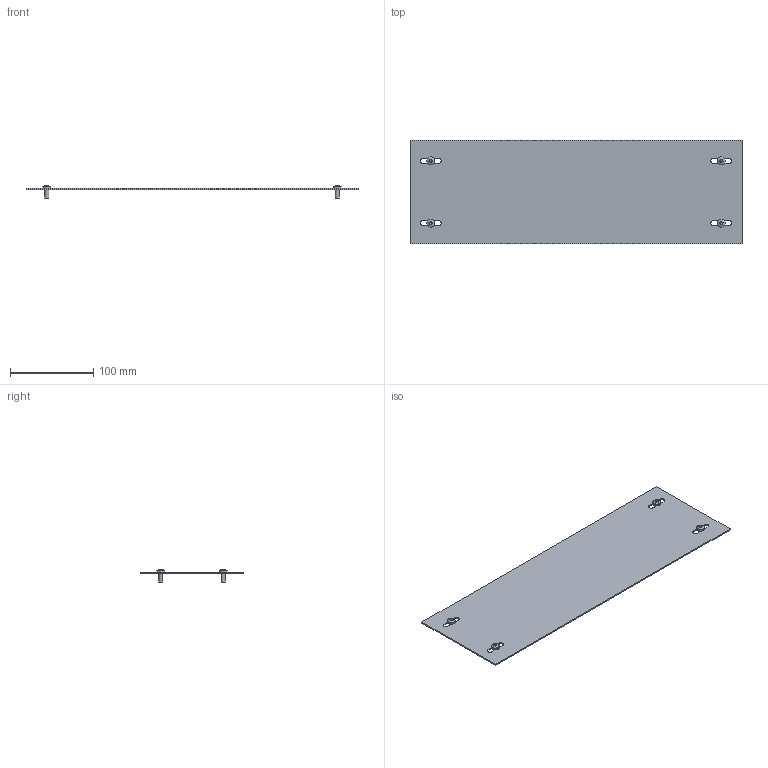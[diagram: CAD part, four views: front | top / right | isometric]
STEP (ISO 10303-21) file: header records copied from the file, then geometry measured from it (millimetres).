
FILE_DESCRIPTION(('Open CASCADE Model'),'2;1');
FILE_NAME('Open CASCADE Shape Model','2025-03-28T17:53:16',('Author'),( 'Open CASCADE'),'Open CASCADE STEP processor 7.8','Open CASCADE 7.8' ,'Unknown');
FILE_SCHEMA(('AUTOMOTIVE_DESIGN { 1 0 10303 214 1 1 1 1 }'));
Length unit declared in the file: millimetre
Products named in the file (3): Compound1; Solid1; Solid2
Assembly tree (5 placements, depth 2):
  Compound1
    Solid1
    Solid2  x4
Bounding box: 400 x 125 x 15.56 mm (x, y, z)
Volume: 75775.7 mm3; surface area: 102392.5 mm2
Topology: 5 solids, 5 shells, 86 faces, 180 edges, 108 vertices
Faces by surface type: plane 46, cylinder 16, torus 8, cone 8, sphere 4, bspline 4
Full cylindrical faces by diameter (mm): 5 x4, 9.5 x4
Entity records: 1508 total; most frequent: CARTESIAN_POINT 562, DIRECTION 190, ORIENTED_EDGE 178, EDGE_CURVE 89, AXIS2_PLACEMENT_3D 73, VERTEX_POINT 57, FACE_BOUND 48, EDGE_LOOP 48
